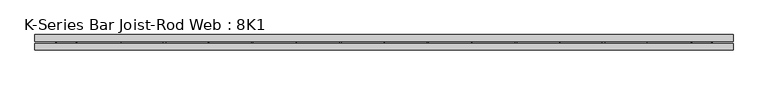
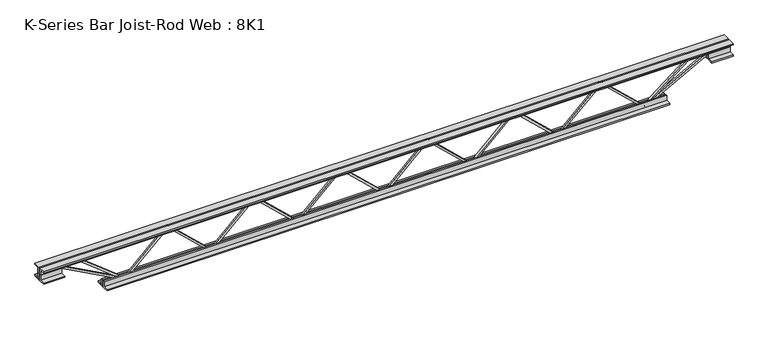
"""IFC4 building model written with IfcOpenShell, lengths in millimetres: beam geometry, K-Series Bar Joist-Rod Web : 8K1."""

from ifc_helpers import new_model, si_unit, frame, origin, place, context, project, spatial, polyline, outline, extrude, source, transform, mapped, element, save


def k_series_bar_joist_rod_web_8k1_170a1346(model_context):
    return source(origin(), model_context, "Body", "SweptSolid", [
        extrude(outline(polyline([(-90.4875, 416.1530704), (-100.0125, 416.1530704), (-100.0125, 421.2213977), (90.4875, 622.9479329), (90.4875, 625.5112783), (-100.0125, 827.2378135), (-100.0125, 832.3061408), (-90.4875, 832.3061408), (-90.4875, 831.0244681), (100.0125, 629.2979329), (100.0125, 619.1612783), (-90.4875, 417.4347431), (-90.4875, 416.1530704)])), frame((0.0, -4.7625, 0.0), z_axis=(0.0, 1.0, 0.0), x_axis=(0.0, 0.0, 1.0)), (0.0, 0.0, 1.0), 9.525),
        extrude(outline(polyline([(-90.4875, 0.0), (-100.0125, 0.0), (-100.0125, 5.0683273), (90.4875, 206.7948625), (90.4875, 209.3582079), (-100.0125, 411.0847431), (-100.0125, 416.1530704), (-90.4875, 416.1530704), (-90.4875, 414.8713977), (100.0125, 213.1448625), (100.0125, 203.0082079), (-90.4875, 1.2816727), (-90.4875, 0.0)])), frame((0.0, -4.7625, 0.0), z_axis=(0.0, 1.0, 0.0), x_axis=(0.0, 0.0, 1.0)), (0.0, 0.0, 1.0), 9.525),
        extrude(outline(polyline([(-90.4875, -416.1530704), (-100.0125, -416.1530704), (-100.0125, -411.0847431), (90.4875, -209.3582079), (90.4875, -206.7948625), (-100.0125, -5.0683273), (-100.0125, 0.0), (-90.4875, 0.0), (-90.4875, -1.2816727), (100.0125, -203.0082079), (100.0125, -213.1448625), (-90.4875, -414.8713977), (-90.4875, -416.1530704)])), frame((0.0, -4.7625, 0.0), z_axis=(0.0, 1.0, 0.0), x_axis=(0.0, 0.0, 1.0)), (0.0, 0.0, 1.0), 9.525),
        extrude(outline(polyline([(-90.4875, -832.3061408), (-100.0125, -832.3061408), (-100.0125, -827.2378135), (90.4875, -625.5112783), (90.4875, -622.9479329), (-100.0125, -421.2213977), (-100.0125, -416.1530704), (-90.4875, -416.1530704), (-90.4875, -417.4347431), (100.0125, -619.1612783), (100.0125, -629.2979329), (-90.4875, -831.0244681), (-90.4875, -832.3061408)])), frame((0.0, -4.7625, 0.0), z_axis=(0.0, 1.0, 0.0), x_axis=(0.0, 0.0, 1.0)), (0.0, 0.0, 1.0), 9.525),
        extrude(outline(polyline([(-90.4875, 832.3061408), (-100.0125, 832.3061408), (-100.0125, 837.3744681), (90.4875, 1039.1010033), (90.4875, 1041.6643486), (-100.0125, 1243.3908838), (-100.0125, 1248.4592111), (-90.4875, 1248.4592111), (-90.4875, 1247.1775385), (100.0125, 1045.4510033), (100.0125, 1035.3143486), (-90.4875, 833.5878135), (-90.4875, 832.3061408)])), frame((0.0, -4.7625, 0.0), z_axis=(0.0, 1.0, 0.0), x_axis=(0.0, 0.0, 1.0)), (0.0, 0.0, 1.0), 9.525),
        extrude(outline(polyline([(-90.4875, -1248.4592111), (-100.0125, -1248.4592111), (-100.0125, -1243.3908838), (90.4875, -1041.6643486), (90.4875, -1039.1010033), (-100.0125, -837.3744681), (-100.0125, -832.3061408), (-90.4875, -832.3061408), (-90.4875, -833.5878135), (100.0125, -1035.3143486), (100.0125, -1045.4510033), (-90.4875, -1247.1775385), (-90.4875, -1248.4592111)])), frame((0.0, -4.7625, 0.0), z_axis=(0.0, 1.0, 0.0), x_axis=(0.0, 0.0, 1.0)), (0.0, 0.0, 1.0), 9.525),
        extrude(outline(polyline([(4.7625, 101.6), (36.5125, 101.6), (36.5125, 95.25), (11.1125, 95.25), (11.1125, 69.85), (4.7625, 69.85), (4.7625, 101.6)])), frame((-1654.8592111, 0.0, 0.0), z_axis=(1.0, 0.0, 0.0), x_axis=(0.0, 1.0, 0.0)), (0.0, 0.0, 1.0), 3309.7184223),
        extrude(outline(polyline([(-4.7625, 101.6), (-4.7625, 69.85), (-11.1125, 69.85), (-11.1125, 95.25), (-36.5125, 95.25), (-36.5125, 101.6), (-4.7625, 101.6)])), frame((-1654.8592111, 0.0, 0.0), z_axis=(1.0, 0.0, 0.0), x_axis=(0.0, 1.0, 0.0)), (0.0, 0.0, 1.0), 3309.7184223),
        extrude(outline(polyline([(-4.7625, 38.1), (-36.5125, 38.1), (-36.5125, 44.45), (-11.1125, 44.45), (-11.1125, 69.85), (-4.7625, 69.85), (-4.7625, 38.1)])), frame((-1654.8592111, 0.0, 0.0), z_axis=(1.0, 0.0, 0.0), x_axis=(0.0, 1.0, 0.0)), (0.0, 0.0, 1.0), 101.6),
        extrude(outline(polyline([(36.5125, 38.1), (4.7625, 38.1), (4.7625, 69.85), (11.1125, 69.85), (11.1125, 44.45), (36.5125, 44.45), (36.5125, 38.1)])), frame((-1654.8592111, 0.0, 0.0), z_axis=(1.0, 0.0, 0.0), x_axis=(0.0, 1.0, 0.0)), (0.0, 0.0, 1.0), 101.6),
        extrude(outline(polyline([(4.7625, 38.1), (4.7625, 69.85), (11.1125, 69.85), (11.1125, 44.45), (36.5125, 44.45), (36.5125, 38.1), (4.7625, 38.1)])), frame((1553.2592111, 0.0, 0.0), z_axis=(1.0, 0.0, 0.0), x_axis=(0.0, 1.0, 0.0)), (0.0, 0.0, 1.0), 101.6),
        extrude(outline(polyline([(-4.7625, 38.1), (-36.5125, 38.1), (-36.5125, 44.45), (-11.1125, 44.45), (-11.1125, 69.85), (-4.7625, 69.85), (-4.7625, 38.1)])), frame((1553.2592111, 0.0, 0.0), z_axis=(1.0, 0.0, 0.0), x_axis=(0.0, 1.0, 0.0)), (0.0, 0.0, 1.0), 101.6),
        extrude(outline(polyline([(4.7625, -101.6), (4.7625, -69.85), (11.1125, -69.85), (11.1125, -95.25), (36.5125, -95.25), (36.5125, -101.6), (4.7625, -101.6)])), frame((-1350.0592111, 0.0, 0.0), z_axis=(1.0, 0.0, 0.0), x_axis=(0.0, 1.0, 0.0)), (0.0, 0.0, 1.0), 2700.1184223),
        extrude(outline(polyline([(-4.7625, -101.6), (-36.5125, -101.6), (-36.5125, -95.25), (-11.1125, -95.25), (-11.1125, -69.85), (-4.7625, -69.85), (-4.7625, -101.6)])), frame((-1350.0592111, 0.0, 0.0), z_axis=(1.0, 0.0, 0.0), x_axis=(0.0, 1.0, 0.0)), (0.0, 0.0, 1.0), 2700.1184223),
        extrude(outline(polyline([(0.0, -9.525), (0.0, 0.0), (346.6425392, 0.0), (346.6425392, -9.525), (0.0, -9.525)])), frame((-1555.5275096, 4.7625, 65.662372), z_axis=(0.4762831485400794, 0.0, 0.8792919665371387), x_axis=(0.8792919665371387, 0.0, -0.4762831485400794)), (0.0, 0.0, 1.0), 9.525),
        extrude(outline(polyline([(0.0, -9.525), (0.0, 0.0), (265.6197555, 0.0), (265.6197555, -9.525), (0.0, -9.525)])), frame((-1459.4959507, 4.7625, 66.1192365), z_axis=(0.6215652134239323, 0.0, 0.7833624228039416), x_axis=(0.7833624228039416, 0.0, -0.6215652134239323)), (0.0, 0.0, 1.0), 9.525),
        extrude(outline(polyline([(0.0, -9.525), (0.0, 0.0), (346.6425392, 0.0), (346.6425392, -9.525), (0.0, -9.525)])), frame((1555.5275096, -4.7625, 65.662372), z_axis=(-0.4762831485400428, 0.0, 0.8792919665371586), x_axis=(-0.8792919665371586, 0.0, -0.4762831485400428)), (0.0, 0.0, 1.0), 9.525),
        extrude(outline(polyline([(0.0, -9.525), (0.0, 0.0), (265.6197555, 0.0), (265.6197555, -9.525), (0.0, -9.525)])), frame((1459.4959507, -4.7625, 66.1192365), z_axis=(-0.6215652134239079, 0.0, 0.7833624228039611), x_axis=(-0.7833624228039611, 0.0, -0.6215652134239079)), (0.0, 0.0, 1.0), 9.525),
    ])


if __name__ == "__main__":
    model = new_model("IFC4")
    model_context = context("Model", 3, world=origin())
    ifc_project = project(units=[si_unit("LENGTHUNIT", "METRE", prefix="MILLI")], contexts=[model_context])
    site = spatial("IfcSite", under=ifc_project)
    building = spatial("IfcBuilding", under=site)
    placement = place(None, origin())
    k_series_bar_joist_rod_web_8k1_shape = k_series_bar_joist_rod_web_8k1_170a1346(model_context)
    element("IfcBeam", 1, ObjectType="K-Series Bar Joist-Rod Web : 8K1", at=placement, inside=building, context=model_context, shape_type="MappedRepresentation", body=[
        mapped(k_series_bar_joist_rod_web_8k1_shape, transform((0.0, 0.0, 0.0), x_axis=(1.0, 0.0, 0.0), y_axis=(0.0, 1.0, 0.0), z_axis=(0.0, 0.0, 1.0))),
    ])
    save(model, "model.ifc")
